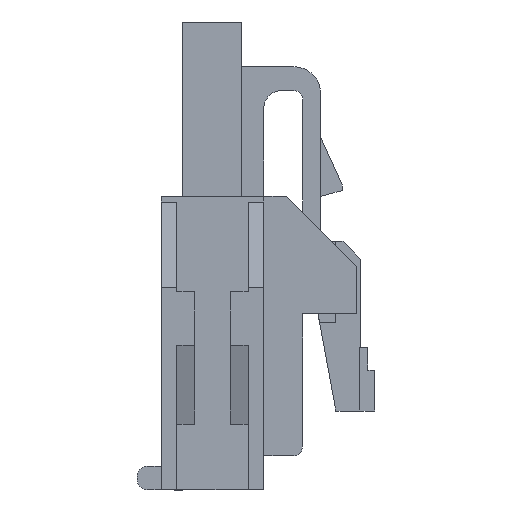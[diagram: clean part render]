
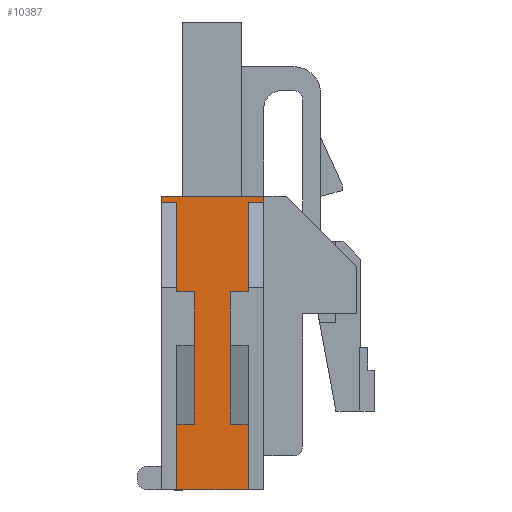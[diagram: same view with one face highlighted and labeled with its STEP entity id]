
A CAD part, left-side view. The second image highlights one B-rep face of the part: STEP entity #10387.
In plain terms, the highlighted planar face has unit normal (-1, 0, 0).
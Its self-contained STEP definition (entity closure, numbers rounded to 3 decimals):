
#280 = CARTESIAN_POINT ( 'NONE',  ( -7.97, 1.18, 2.21 ) ) ;
#285 = DIRECTION ( 'NONE',  ( 0., -1., 0. ) ) ;
#292 = CARTESIAN_POINT ( 'NONE',  ( -7.97, -1.22, 2.21 ) ) ;
#319 = ORIENTED_EDGE ( 'NONE', *, *, #6832, .F. ) ;
#551 = EDGE_CURVE ( 'NONE', #1581, #10276, #1705, .T. ) ;
#888 = EDGE_CURVE ( 'NONE', #10276, #4052, #3077, .T. ) ;
#938 = VERTEX_POINT ( 'NONE', #16364 ) ;
#1106 = CARTESIAN_POINT ( 'NONE',  ( -7.97, -1.22, 2.21 ) ) ;
#1124 = VECTOR ( 'NONE', #285, 1000. ) ;
#1237 = CARTESIAN_POINT ( 'NONE',  ( -7.97, 0.58, 6.65 ) ) ;
#1336 = VERTEX_POINT ( 'NONE', #5506 ) ;
#1561 = LINE ( 'NONE', #13121, #5950 ) ;
#1581 = VERTEX_POINT ( 'NONE', #1106 ) ;
#1644 = CARTESIAN_POINT ( 'NONE',  ( -7.97, -0.62, 6.65 ) ) ;
#1672 = FACE_OUTER_BOUND ( 'NONE', #12244, .T. ) ;
#1705 = LINE ( 'NONE', #292, #7071 ) ;
#2010 = DIRECTION ( 'NONE',  ( 0., -1., 0. ) ) ;
#2062 = CARTESIAN_POINT ( 'NONE',  ( -7.97, 1.18, 2.21 ) ) ;
#2100 = EDGE_CURVE ( 'NONE', #6113, #15315, #1561, .T. ) ;
#2453 = VERTEX_POINT ( 'NONE', #1644 ) ;
#2855 = EDGE_CURVE ( 'NONE', #4052, #5880, #15097, .T. ) ;
#3007 = VERTEX_POINT ( 'NONE', #5676 ) ;
#3077 = LINE ( 'NONE', #8118, #19894 ) ;
#3174 = VECTOR ( 'NONE', #4520, 1000. ) ;
#3473 = EDGE_CURVE ( 'NONE', #938, #11938, #16753, .T. ) ;
#3808 = ORIENTED_EDGE ( 'NONE', *, *, #4220, .F. ) ;
#3856 = VECTOR ( 'NONE', #2010, 1000. ) ;
#4052 = VERTEX_POINT ( 'NONE', #15629 ) ;
#4177 = CARTESIAN_POINT ( 'NONE',  ( -7.97, 32.316, 9.66 ) ) ;
#4220 = EDGE_CURVE ( 'NONE', #15315, #18782, #10042, .T. ) ;
#4520 = DIRECTION ( 'NONE',  ( 0., 1., 0. ) ) ;
#4649 = ORIENTED_EDGE ( 'NONE', *, *, #888, .F. ) ;
#4995 = ORIENTED_EDGE ( 'NONE', *, *, #11564, .F. ) ;
#5046 = CARTESIAN_POINT ( 'NONE',  ( -7.97, -0.62, 6.65 ) ) ;
#5233 = ORIENTED_EDGE ( 'NONE', *, *, #11077, .F. ) ;
#5270 = VECTOR ( 'NONE', #15213, 1000. ) ;
#5429 = DIRECTION ( 'NONE',  ( 0., 0., -1. ) ) ;
#5451 = ORIENTED_EDGE ( 'NONE', *, *, #2100, .F. ) ;
#5457 = ORIENTED_EDGE ( 'NONE', *, *, #551, .F. ) ;
#5506 = CARTESIAN_POINT ( 'NONE',  ( -7.97, 0.58, 2.21 ) ) ;
#5676 = CARTESIAN_POINT ( 'NONE',  ( -7.97, 1.18, 6.65 ) ) ;
#5880 = VERTEX_POINT ( 'NONE', #2062 ) ;
#5938 = LINE ( 'NONE', #12472, #14756 ) ;
#5950 = VECTOR ( 'NONE', #8305, 1000. ) ;
#6113 = VERTEX_POINT ( 'NONE', #18081 ) ;
#6301 = ORIENTED_EDGE ( 'NONE', *, *, #3473, .T. ) ;
#6348 = ORIENTED_EDGE ( 'NONE', *, *, #7749, .F. ) ;
#6432 = VECTOR ( 'NONE', #11477, 1000. ) ;
#6577 = DIRECTION ( 'NONE',  ( 0., 1., 0. ) ) ;
#6832 = EDGE_CURVE ( 'NONE', #2453, #9590, #9268, .T. ) ;
#6857 = DIRECTION ( 'NONE',  ( 0., 0., -1. ) ) ;
#6976 = CARTESIAN_POINT ( 'NONE',  ( -7.97, 1.7, 9.66 ) ) ;
#7071 = VECTOR ( 'NONE', #14988, 1000. ) ;
#7749 = EDGE_CURVE ( 'NONE', #1336, #10386, #15383, .T. ) ;
#8100 = DIRECTION ( 'NONE',  ( 0., 1., 0. ) ) ;
#8103 = LINE ( 'NONE', #11732, #20254 ) ;
#8118 = CARTESIAN_POINT ( 'NONE',  ( -7.97, -1.22, 0. ) ) ;
#8263 = CARTESIAN_POINT ( 'NONE',  ( -7.97, 32.316, 9.85 ) ) ;
#8305 = DIRECTION ( 'NONE',  ( 0., 1., 0. ) ) ;
#8445 = LINE ( 'NONE', #14976, #1124 ) ;
#9056 = EDGE_CURVE ( 'NONE', #10386, #3007, #19238, .T. ) ;
#9268 = LINE ( 'NONE', #5046, #6432 ) ;
#9590 = VERTEX_POINT ( 'NONE', #17159 ) ;
#9710 = CARTESIAN_POINT ( 'NONE',  ( -7.97, 0.58, 6.65 ) ) ;
#9812 = DIRECTION ( 'NONE',  ( 1., 0., 0. ) ) ;
#10042 = LINE ( 'NONE', #11962, #14533 ) ;
#10184 = LINE ( 'NONE', #8263, #18237 ) ;
#10233 = DIRECTION ( 'NONE',  ( 0., 0., 1. ) ) ;
#10276 = VERTEX_POINT ( 'NONE', #14208 ) ;
#10386 = VERTEX_POINT ( 'NONE', #9710 ) ;
#10387 = ADVANCED_FACE ( 'NONE', ( #1672 ), #11729, .F. ) ;
#10612 = ORIENTED_EDGE ( 'NONE', *, *, #21026, .F. ) ;
#10720 = DIRECTION ( 'NONE',  ( 0., 1., 0. ) ) ;
#10778 = CARTESIAN_POINT ( 'NONE',  ( -7.97, 0.58, 2.21 ) ) ;
#11077 = EDGE_CURVE ( 'NONE', #5880, #1336, #11759, .T. ) ;
#11136 = VECTOR ( 'NONE', #6577, 1000. ) ;
#11155 = CARTESIAN_POINT ( 'NONE',  ( -7.97, 1.18, 9.66 ) ) ;
#11477 = DIRECTION ( 'NONE',  ( 0., 0., -1. ) ) ;
#11517 = CARTESIAN_POINT ( 'NONE',  ( -7.97, 32.316, 9.66 ) ) ;
#11564 = EDGE_CURVE ( 'NONE', #3007, #14981, #8103, .T. ) ;
#11578 = CARTESIAN_POINT ( 'NONE',  ( -7.97, -1.74, 9.85 ) ) ;
#11729 = PLANE ( 'NONE',  #13796 ) ;
#11732 = CARTESIAN_POINT ( 'NONE',  ( -7.97, 1.18, 6.65 ) ) ;
#11759 = LINE ( 'NONE', #280, #3856 ) ;
#11868 = EDGE_CURVE ( 'NONE', #6113, #18466, #5938, .T. ) ;
#11938 = VERTEX_POINT ( 'NONE', #16637 ) ;
#11962 = CARTESIAN_POINT ( 'NONE',  ( -7.97, -1.22, 9.85 ) ) ;
#12097 = ORIENTED_EDGE ( 'NONE', *, *, #20777, .F. ) ;
#12244 = EDGE_LOOP ( 'NONE', ( #14934, #18290, #6301, #10612, #4995, #21223, #6348, #5233, #20973, #4649, #5457, #16014, #319, #12097, #3808, #5451 ) ) ;
#12312 = VECTOR ( 'NONE', #20525, 1000. ) ;
#12472 = CARTESIAN_POINT ( 'NONE',  ( -7.97, -1.74, 9.66 ) ) ;
#13121 = CARTESIAN_POINT ( 'NONE',  ( -7.97, 32.316, 9.66 ) ) ;
#13706 = CARTESIAN_POINT ( 'NONE',  ( -7.97, 1.18, 0. ) ) ;
#13796 = AXIS2_PLACEMENT_3D ( 'NONE', #11517, #9812, #8100 ) ;
#14208 = CARTESIAN_POINT ( 'NONE',  ( -7.97, -1.22, 0. ) ) ;
#14533 = VECTOR ( 'NONE', #5429, 1000. ) ;
#14756 = VECTOR ( 'NONE', #16536, 1000. ) ;
#14934 = ORIENTED_EDGE ( 'NONE', *, *, #11868, .T. ) ;
#14976 = CARTESIAN_POINT ( 'NONE',  ( -7.97, -0.62, 2.21 ) ) ;
#14981 = VERTEX_POINT ( 'NONE', #11155 ) ;
#14988 = DIRECTION ( 'NONE',  ( 0., 0., -1. ) ) ;
#15097 = LINE ( 'NONE', #13706, #5270 ) ;
#15213 = DIRECTION ( 'NONE',  ( 0., 0., 1. ) ) ;
#15315 = VERTEX_POINT ( 'NONE', #21182 ) ;
#15383 = LINE ( 'NONE', #10778, #12312 ) ;
#15629 = CARTESIAN_POINT ( 'NONE',  ( -7.97, 1.18, 0. ) ) ;
#16014 = ORIENTED_EDGE ( 'NONE', *, *, #20335, .F. ) ;
#16364 = CARTESIAN_POINT ( 'NONE',  ( -7.97, 1.7, 9.85 ) ) ;
#16536 = DIRECTION ( 'NONE',  ( 0., 0., 1. ) ) ;
#16637 = CARTESIAN_POINT ( 'NONE',  ( -7.97, 1.7, 9.66 ) ) ;
#16753 = LINE ( 'NONE', #6976, #19443 ) ;
#17159 = CARTESIAN_POINT ( 'NONE',  ( -7.97, -0.62, 2.21 ) ) ;
#18081 = CARTESIAN_POINT ( 'NONE',  ( -7.97, -1.74, 9.66 ) ) ;
#18178 = DIRECTION ( 'NONE',  ( 0., 1., 0. ) ) ;
#18237 = VECTOR ( 'NONE', #19934, 1000. ) ;
#18290 = ORIENTED_EDGE ( 'NONE', *, *, #20860, .F. ) ;
#18466 = VERTEX_POINT ( 'NONE', #11578 ) ;
#18782 = VERTEX_POINT ( 'NONE', #20370 ) ;
#18851 = LINE ( 'NONE', #4177, #19901 ) ;
#19238 = LINE ( 'NONE', #1237, #11136 ) ;
#19443 = VECTOR ( 'NONE', #6857, 1000. ) ;
#19894 = VECTOR ( 'NONE', #18178, 1000. ) ;
#19901 = VECTOR ( 'NONE', #10720, 1000. ) ;
#19934 = DIRECTION ( 'NONE',  ( 0., -1., 0. ) ) ;
#20254 = VECTOR ( 'NONE', #10233, 1000. ) ;
#20335 = EDGE_CURVE ( 'NONE', #9590, #1581, #8445, .T. ) ;
#20370 = CARTESIAN_POINT ( 'NONE',  ( -7.97, -1.22, 6.65 ) ) ;
#20525 = DIRECTION ( 'NONE',  ( 0., 0., 1. ) ) ;
#20777 = EDGE_CURVE ( 'NONE', #18782, #2453, #21135, .T. ) ;
#20814 = CARTESIAN_POINT ( 'NONE',  ( -7.97, -1.22, 6.65 ) ) ;
#20860 = EDGE_CURVE ( 'NONE', #938, #18466, #10184, .T. ) ;
#20973 = ORIENTED_EDGE ( 'NONE', *, *, #2855, .F. ) ;
#21026 = EDGE_CURVE ( 'NONE', #14981, #11938, #18851, .T. ) ;
#21135 = LINE ( 'NONE', #20814, #3174 ) ;
#21182 = CARTESIAN_POINT ( 'NONE',  ( -7.97, -1.22, 9.66 ) ) ;
#21223 = ORIENTED_EDGE ( 'NONE', *, *, #9056, .F. ) ;
